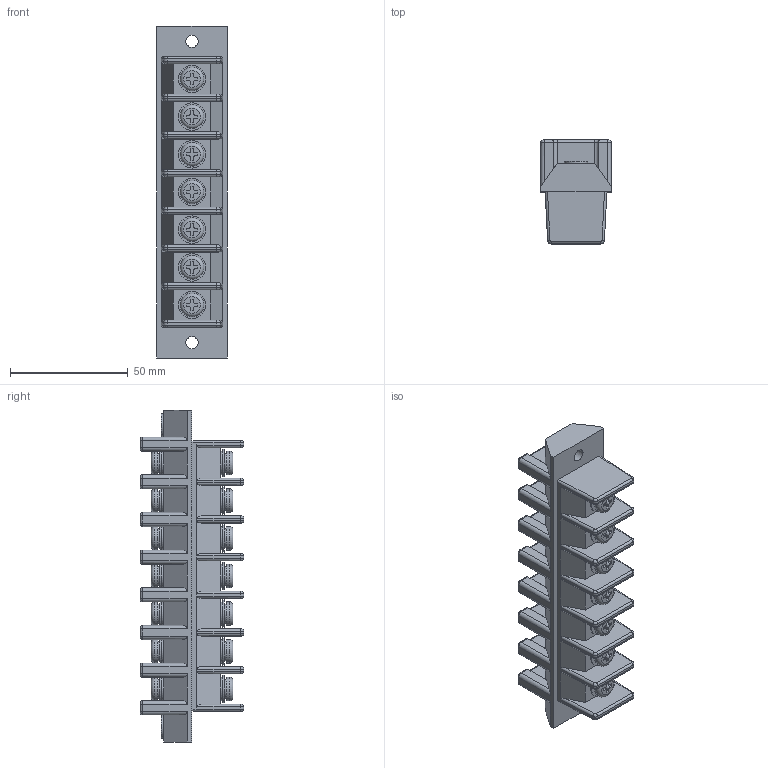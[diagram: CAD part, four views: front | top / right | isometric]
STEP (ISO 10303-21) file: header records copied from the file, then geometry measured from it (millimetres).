
FILE_DESCRIPTION(/* description */ ('Alibre Inc.'),/* implementation_level */ '2;1');
FILE_NAME(/* name */ 'export-76DDA20B-CD42-4A8B-AFB3-FBD568D873C0',/* time_stamp */ '2025-02-21T13:23:57+09:00',/* author */ (''),/* organization */ (''),/* preprocessor_version */ 'ST-DEVELOPER v17',/* originating_system */ 'Alibre',/* authorisation */ '');
FILE_SCHEMA (('CONFIG_CONTROL_DESIGN'));
Length unit declared in the file: millimetre
Bounding box: 30 x 44 x 141 mm (x, y, z)
Volume: 94628.4 mm3; surface area: 32256.8 mm2
Topology: 1 solids, 22 shells, 928 faces, 2141 edges, 1330 vertices
Faces by surface type: plane 433, cylinder 357, torus 110, cone 28
Full cylindrical faces by diameter (mm): 4.4 x14, 4.6 x14, 5 x21, 5.2 x2, 8 x14, 9.9 x16, 10 x14, 11.7 x14
Entity records: 24522 total; most frequent: CARTESIAN_POINT 4482, ORIENTED_EDGE 3948, DIRECTION 3901, EDGE_CURVE 1974, AXIS2_PLACEMENT_3D 1656, VERTEX_POINT 1314, EDGE_LOOP 1184, FACE_BOUND 1184
